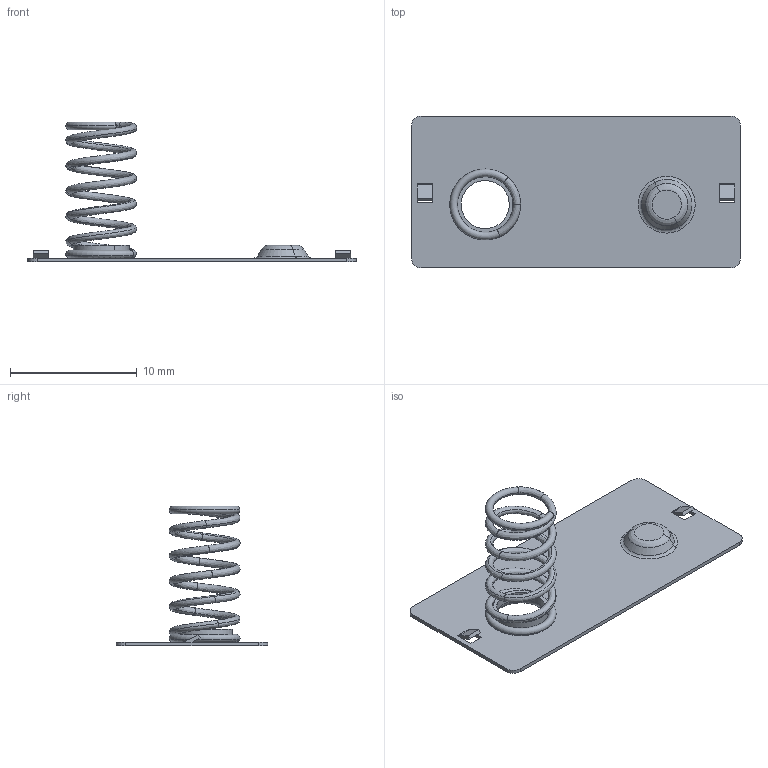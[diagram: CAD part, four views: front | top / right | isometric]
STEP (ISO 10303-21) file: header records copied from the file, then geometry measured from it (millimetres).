
FILE_DESCRIPTION(('CATIA V5 STEP Exchange'),'2;1');
FILE_NAME('X:\XDrive\Homepage\homes\techecke\elektronik\download\AA-Batteriekontakt_Bruecke.stp','2026-05-14T12:20:08+00:00',('none'),('none'),'CATIA Version 5 Release 19 SP 2 (IN-10)','CATIA V5 STEP AP203','none');
FILE_SCHEMA(('CONFIG_CONTROL_DESIGN'));
Length unit declared in the file: millimetre
Products named in the file (1): AA-Batteriekontakt_Bruecke
Bounding box: 26 x 12 x 11.04 mm (x, y, z)
Volume: 124 mm3; surface area: 847.6 mm2
Topology: 1 solids, 1 shells, 86 faces, 204 edges, 122 vertices
Faces by surface type: plane 27, bspline 26, torus 16, cylinder 13, cone 4
Entity records: 4219 total; most frequent: CARTESIAN_POINT 2559, ORIENTED_EDGE 410, DIRECTION 224, EDGE_CURVE 204, VERTEX_POINT 122, AXIS2_PLACEMENT_3D 112, EDGE_LOOP 95, ADVANCED_FACE 86
